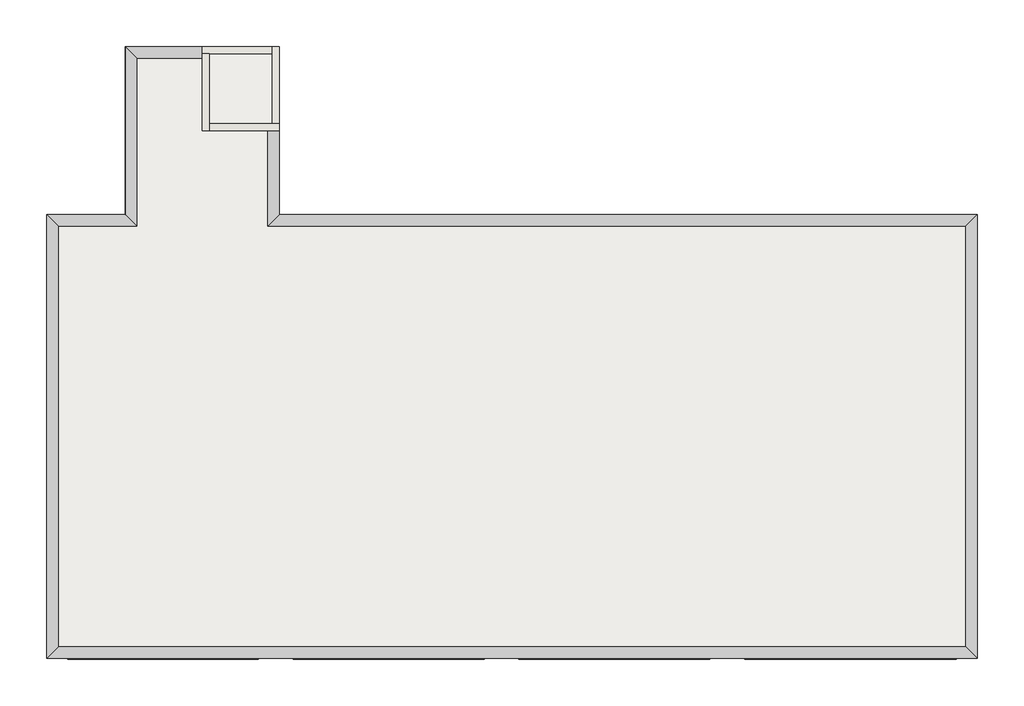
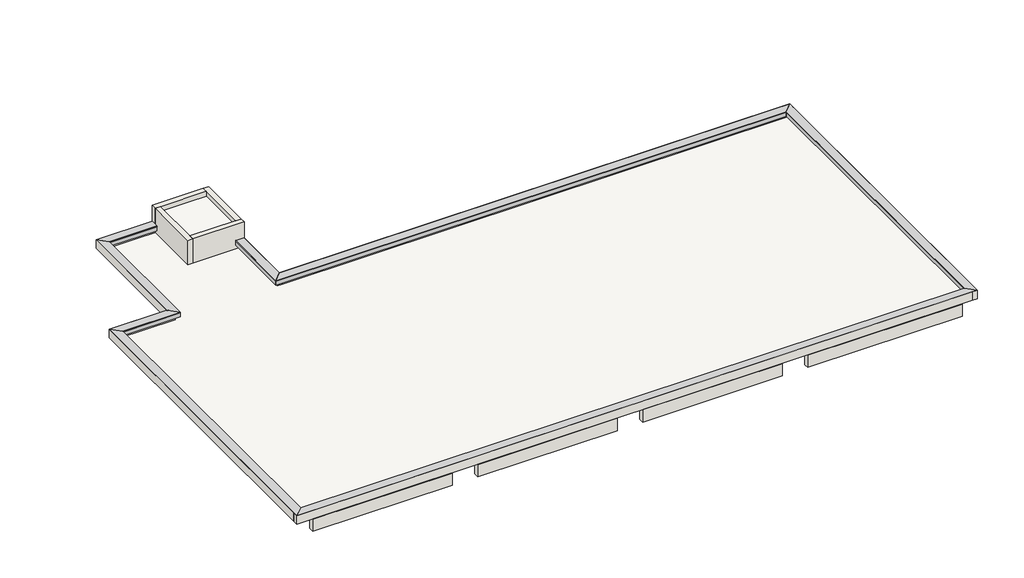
# One storey: 16 proxies, 16 walls, 2 slabs.
"""IFC4 building model written with IfcOpenShell, lengths in millimetres."""

import ifcopenshell
import ifcopenshell.guid

model = None  # the IFC model being written
_history = None  # IfcOwnerHistory: only IFC2X3 demands one
_inside = {}  # id of a spatial element -> (the spatial element, [elements in it])
_under = {}  # id of a project, library or spatial element -> (it, [spatial elements below it])
_declared = {}  # id of a project -> (the project, [libraries it declares])
_typed = {}  # id of a type object -> (the type object, [elements of that type])
_made_of = {}  # id of a material, layer set ... -> (it, [elements and type objects made of it])


def new_model(schema):
    """Start an empty IFC model of exactly this schema.

    Asked for "IFC4X3", IfcOpenShell would pick the latest addendum, in which some entities
    have other attributes; the version numbers below select the first issue.
    IFC2X3 requires an IfcOwnerHistory on every rooted entity: one is made here for all.
    """
    global model, _history
    if schema == "IFC4X3":
        model = ifcopenshell.file(schema_version=(4, 3, 0, 0))
    else:
        model = ifcopenshell.file(schema=schema)
    _inside.clear()
    _under.clear()
    _declared.clear()
    _typed.clear()
    _made_of.clear()
    _history = None
    if model.schema == "IFC2X3":
        org = make("IfcOrganization", Name="unknown")
        user = make(
            "IfcPersonAndOrganization",
            ThePerson=make("IfcPerson", FamilyName="unknown"),
            TheOrganization=org,
        )
        app = make(
            "IfcApplication",
            ApplicationDeveloper=org,
            Version="unknown",
            ApplicationFullName="unknown",
            ApplicationIdentifier="unknown",
        )
        _history = make(
            "IfcOwnerHistory",
            OwningUser=user,
            OwningApplication=app,
            ChangeAction="ADDED",
            CreationDate=0,
        )
    return model


def make(cls, **values):
    """One entity of the class cls with the attributes given. An attribute that is None is left unset."""
    return model.create_entity(
        cls, **{name: value for name, value in values.items() if value is not None}
    )


def rooted(cls, **values):
    """An entity with a GlobalId (a new one), such as an element, a storey or a relation."""
    return make(cls, GlobalId=ifcopenshell.guid.new(), OwnerHistory=_history, **values)


def si_unit(unit_type, name, prefix=None):
    """IfcSIUnit, for example si_unit("LENGTHUNIT", "METRE", prefix="MILLI")."""
    return make("IfcSIUnit", UnitType=unit_type, Prefix=prefix, Name=name)


def assignment(units):
    """IfcUnitAssignment: the units of a project."""
    return None if units is None else make("IfcUnitAssignment", Units=units)


def point(xyz):
    """IfcCartesianPoint."""
    return None if xyz is None else make("IfcCartesianPoint", Coordinates=xyz)


def direction(xyz):
    """IfcDirection."""
    return None if xyz is None else make("IfcDirection", DirectionRatios=xyz)


def frame(location, z_axis=None, x_axis=None):
    """IfcAxis2Placement3D, a coordinate frame: its origin and axes. An axis left out is left unset."""
    return make(
        "IfcAxis2Placement3D",
        Location=point(location),
        Axis=direction(z_axis),
        RefDirection=direction(x_axis),
    )


def origin():
    """The frame at (0, 0, 0) with its axes left unset."""
    return frame((0.0, 0.0, 0.0))


def place(relative_to, where):
    """IfcLocalPlacement: puts the frame where relative to a parent placement (None: the world)."""
    return make(
        "IfcLocalPlacement", PlacementRelTo=relative_to, RelativePlacement=where
    )


def context(
    kind, dimensions, precision=None, world=None, true_north=None, identifier=None
):
    """IfcGeometricRepresentationContext, for example the 3D "Model" context."""
    return make(
        "IfcGeometricRepresentationContext",
        ContextIdentifier=identifier,
        ContextType=kind,
        CoordinateSpaceDimension=dimensions,
        Precision=precision,
        WorldCoordinateSystem=world,
        TrueNorth=true_north,
    )


def project(units=None, contexts=None):
    """IfcProject with its units and contexts."""
    return rooted(
        "IfcProject",
        Name="project",
        RepresentationContexts=contexts,
        UnitsInContext=assignment(units),
    )


def spatial(cls, under=None, at=None, **own):
    """A site, building, storey or space (cls), placed at a placement, below another one or the project."""
    s = rooted(cls, ObjectPlacement=at, **own)
    if under is not None:
        _under.setdefault(under.id(), (under, []))[1].append(s)
    return s


def polyline(points):
    """IfcPolyline through the points."""
    return make("IfcPolyline", Points=[point(p) for p in points])


def outline(outer, holes=None, kind="AREA"):
    """IfcArbitraryClosedProfileDef: a profile drawn as a closed curve; with holes, ...WithVoids."""
    if holes is None:
        return make("IfcArbitraryClosedProfileDef", ProfileType=kind, OuterCurve=outer)
    return make(
        "IfcArbitraryProfileDefWithVoids",
        ProfileType=kind,
        OuterCurve=outer,
        InnerCurves=holes,
    )


def extrude(swept, where, along, depth):
    """IfcExtrudedAreaSolid: the profile swept, set in the frame where, extruded along a direction by depth."""
    return make(
        "IfcExtrudedAreaSolid",
        SweptArea=swept,
        Position=where,
        ExtrudedDirection=direction(along),
        Depth=depth,
    )


def faces_of(points, faces, orient=None, outer=None):
    """IfcFace entities. A face is a list of loops; a loop is a list of indices into points, from 0.

    orient and outer hold one flag for each loop. By default every Orientation is true, the
    first loop of a face is its IfcFaceOuterBound and the others are IfcFaceBound.
    """
    made = []
    for i, loops in enumerate(faces):
        bounds = []
        for j, loop in enumerate(loops):
            is_outer = j == 0 if outer is None else outer[i][j]
            bounds.append(
                make(
                    "IfcFaceOuterBound" if is_outer else "IfcFaceBound",
                    Bound=make("IfcPolyLoop", Polygon=[points[k] for k in loop]),
                    Orientation=True if orient is None else orient[i][j],
                )
            )
        made.append(make("IfcFace", Bounds=bounds))
    return made


def faceted_brep(points, faces, orient=None, outer=None, voids=None):
    """IfcFacetedBrep: a solid bounded by flat faces; with voids (closed shells), ...WithVoids."""
    shared = [point(p) for p in points]
    hull = make("IfcClosedShell", CfsFaces=faces_of(shared, faces, orient, outer))
    if voids is None:
        return make("IfcFacetedBrep", Outer=hull)
    return make(
        "IfcFacetedBrepWithVoids",
        Outer=hull,
        Voids=[
            make(cls, CfsFaces=faces_of(shared, fs, o, b)) for cls, fs, o, b in voids
        ],
    )


def shape(context_of_items, identifier, shape_type, items):
    """IfcShapeRepresentation: the items that make up one representation, for example the "Body"."""
    return make(
        "IfcShapeRepresentation",
        ContextOfItems=context_of_items,
        RepresentationIdentifier=identifier,
        RepresentationType=shape_type,
        Items=items,
    )


def made_of(thing, what):
    """Note that an element or type object is made of a material, layer set ...; save() writes the relation."""
    if what is not None:
        _made_of.setdefault(what.id(), (what, []))[1].append(thing)
    return thing


def element(
    cls,
    number,
    at=None,
    inside=None,
    cuts=None,
    type_object=None,
    material=None,
    context=None,
    identifier="Body",
    shape_type=None,
    held_by="IfcProductDefinitionShape",
    body=None,
    shapes=None,
    **own,
):
    """One element of the class cls, such as IfcWall. Its Tag is "e" and its number.

    at: its placement. inside: the storey or other place that contains it. cuts: it is an
    opening in that element (IfcRelVoidsElement). A single representation is given by context,
    identifier, shape_type and body (its items); several are given by shapes. held_by: the class
    of the entity that holds the representations. save() writes the other relations.
    """
    e = rooted(cls, Tag="e%d" % number, ObjectPlacement=at, **own)
    if body is not None:
        shapes = [shape(context, identifier, shape_type, body)]
    if shapes is not None:
        e.Representation = make(held_by, Representations=shapes)
    if inside is not None:
        _inside.setdefault(inside.id(), (inside, []))[1].append(e)
    if cuts is not None:
        rooted(
            "IfcRelVoidsElement", RelatingBuildingElement=cuts, RelatedOpeningElement=e
        )
    if type_object is not None:
        _typed.setdefault(type_object.id(), (type_object, []))[1].append(e)
    return made_of(e, material)


def aggregate(whole, parts):
    """IfcRelAggregates: a whole, such as a stair, and the parts it consists of."""
    return rooted("IfcRelAggregates", RelatingObject=whole, RelatedObjects=parts)


def save(model, path):
    """Write the relations noted so far, then the file.

    IfcRelAggregates (storeys below a building ...), IfcRelContainedInSpatialStructure (elements
    in a storey), IfcRelDefinesByType, IfcRelAssociatesMaterial and IfcRelDeclares: one each for
    every whole, place, type object, material and project.
    """
    for whole, parts in _under.values():
        aggregate(whole, parts)
    for where, things in _inside.values():
        rooted(
            "IfcRelContainedInSpatialStructure",
            RelatedElements=things,
            RelatingStructure=where,
        )
    for kind, things in _typed.values():
        rooted("IfcRelDefinesByType", RelatedObjects=things, RelatingType=kind)
    for what, things in _made_of.values():
        rooted("IfcRelAssociatesMaterial", RelatedObjects=things, RelatingMaterial=what)
    for by, libraries in _declared.values():
        rooted("IfcRelDeclares", RelatingContext=by, RelatedDefinitions=libraries)
    model.write(path)


model = new_model("IFC4")

# Units and contexts
model_context = context("Model", 3, world=origin())
ifc_project = project(units=[si_unit("LENGTHUNIT", "METRE", prefix="MILLI")], contexts=[model_context])

# Site, building, storey
site = spatial("IfcSite", under=ifc_project)
building = spatial("IfcBuilding", under=site)
storey = spatial("IfcBuildingStorey", under=building, Name="RSL", Elevation=13000.0)

# Proxies
placement = place(None, origin())
element("IfcBuildingElementProxy", 1, Name="Reveals", at=placement, inside=storey, context=model_context, shape_type="Brep", body=[
    faceted_brep([(-4958.7187246, -1750.1171638, 13320.0), (-4958.7187246, -1750.1171638, 13350.0), (-4628.7187246, -1750.1171638, 13350.0), (-4958.7187246, -4480.1171638, 13320.0), (-4628.7187246, -4150.1171638, 13350.0), (-4958.7187246, -4480.1171638, 13350.0)], [[[0, 1, 2]], [[3, 4, 5]], [[1, 0, 3, 5]], [[2, 1, 5, 4]], [[0, 2, 4, 3]]]),
])
element("IfcBuildingElementProxy", 2, Name="Wall Sweeps", at=placement, inside=storey, context=model_context, shape_type="Brep", body=[
    faceted_brep([(-4958.7187246, -1750.1171638, 13160.0), (-4958.7187246, -1750.1171638, 13320.0), (-4628.7187246, -1750.1171638, 13350.0), (-4828.7187246, -1750.1171638, 13160.0), (-4958.7187246, -4480.1171638, 13160.0), (-4828.7187246, -4350.1171638, 13160.0), (-4628.7187246, -4150.1171638, 13350.0), (-4958.7187246, -4480.1171638, 13320.0)], [[[0, 1, 2, 3]], [[4, 5, 6, 7]], [[1, 0, 4, 7]], [[2, 1, 7, 6]], [[3, 2, 6, 5]], [[0, 3, 5, 4]]]),
])
element("IfcBuildingElementProxy", 3, Name="Reveals", at=placement, inside=storey, context=model_context, shape_type="Brep", body=[
    faceted_brep([(-4958.7187246, -4480.1171638, 13320.0), (-4958.7187246, -4480.1171638, 13350.0), (-4628.7187246, -4150.1171638, 13350.0), (14991.2812754, -4480.1171638, 13320.0), (15321.2812754, -4150.1171638, 13350.0), (14991.2812754, -4480.1171638, 13350.0)], [[[0, 1, 2]], [[3, 4, 5]], [[1, 0, 3, 5]], [[2, 1, 5, 4]], [[0, 2, 4, 3]]]),
])
element("IfcBuildingElementProxy", 4, Name="Wall Sweeps", at=placement, inside=storey, context=model_context, shape_type="Brep", body=[
    faceted_brep([(-4958.7187246, -4480.1171638, 13160.0), (-4958.7187246, -4480.1171638, 13320.0), (-4628.7187246, -4150.1171638, 13350.0), (-4828.7187246, -4350.1171638, 13160.0), (14991.2812754, -4480.1171638, 13160.0), (15121.2812754, -4350.1171638, 13160.0), (15321.2812754, -4150.1171638, 13350.0), (14991.2812754, -4480.1171638, 13320.0)], [[[0, 1, 2, 3]], [[4, 5, 6, 7]], [[1, 0, 4, 7]], [[2, 1, 7, 6]], [[3, 2, 6, 5]], [[0, 3, 5, 4]]]),
])
element("IfcBuildingElementProxy", 5, Name="Reveals", at=placement, inside=storey, context=model_context, shape_type="Brep", body=[
    faceted_brep([(14991.2812754, -4480.1171638, 13320.0), (14991.2812754, -4480.1171638, 13350.0), (15321.2812754, -4150.1171638, 13350.0), (14991.2812754, -16520.1171638, 13320.0), (15321.2812754, -16850.1171638, 13350.0), (14991.2812754, -16520.1171638, 13350.0)], [[[0, 1, 2]], [[3, 4, 5]], [[1, 0, 3, 5]], [[2, 1, 5, 4]], [[0, 2, 4, 3]]]),
])
element("IfcBuildingElementProxy", 6, Name="Wall Sweeps", at=placement, inside=storey, context=model_context, shape_type="Brep", body=[
    faceted_brep([(14991.2812754, -4480.1171638, 13160.0), (14991.2812754, -4480.1171638, 13320.0), (15321.2812754, -4150.1171638, 13350.0), (15121.2812754, -4350.1171638, 13160.0), (14991.2812754, -16520.1171638, 13160.0), (15121.2812754, -16650.1171638, 13160.0), (15321.2812754, -16850.1171638, 13350.0), (14991.2812754, -16520.1171638, 13320.0)], [[[0, 1, 2, 3]], [[4, 5, 6, 7]], [[1, 0, 4, 7]], [[2, 1, 7, 6]], [[3, 2, 6, 5]], [[0, 3, 5, 4]]]),
])
element("IfcBuildingElementProxy", 7, Name="Reveals", at=placement, inside=storey, context=model_context, shape_type="Brep", body=[
    faceted_brep([(14991.2812754, -16520.1171638, 13320.0), (14991.2812754, -16520.1171638, 13350.0), (15321.2812754, -16850.1171638, 13350.0), (-10948.7187246, -16520.1171638, 13320.0), (-11278.7187246, -16850.1171638, 13350.0), (-10948.7187246, -16520.1171638, 13350.0)], [[[0, 1, 2]], [[3, 4, 5]], [[1, 0, 3, 5]], [[2, 1, 5, 4]], [[0, 2, 4, 3]]]),
])
element("IfcBuildingElementProxy", 8, Name="Wall Sweeps", at=placement, inside=storey, context=model_context, shape_type="Brep", body=[
    faceted_brep([(14991.2812754, -16520.1171638, 13160.0), (14991.2812754, -16520.1171638, 13320.0), (15321.2812754, -16850.1171638, 13350.0), (15121.2812754, -16650.1171638, 13160.0), (-10948.7187246, -16520.1171638, 13160.0), (-11078.7187246, -16650.1171638, 13160.0), (-11278.7187246, -16850.1171638, 13350.0), (-10948.7187246, -16520.1171638, 13320.0)], [[[0, 1, 2, 3]], [[4, 5, 6, 7]], [[1, 0, 4, 7]], [[2, 1, 7, 6]], [[3, 2, 6, 5]], [[0, 3, 5, 4]]]),
])
element("IfcBuildingElementProxy", 9, Name="Reveals", at=placement, inside=storey, context=model_context, shape_type="Brep", body=[
    faceted_brep([(-10948.7187246, -16520.1171638, 13320.0), (-10948.7187246, -16520.1171638, 13350.0), (-11278.7187246, -16850.1171638, 13350.0), (-10948.7187246, -4480.1171638, 13320.0), (-11278.7187246, -4150.1171638, 13350.0), (-10948.7187246, -4480.1171638, 13350.0)], [[[0, 1, 2]], [[3, 4, 5]], [[1, 0, 3, 5]], [[2, 1, 5, 4]], [[0, 2, 4, 3]]]),
])
element("IfcBuildingElementProxy", 10, Name="Wall Sweeps", at=placement, inside=storey, context=model_context, shape_type="Brep", body=[
    faceted_brep([(-10948.7187246, -16520.1171638, 13160.0), (-10948.7187246, -16520.1171638, 13320.0), (-11278.7187246, -16850.1171638, 13350.0), (-11078.7187246, -16650.1171638, 13160.0), (-10948.7187246, -4480.1171638, 13160.0), (-11078.7187246, -4350.1171638, 13160.0), (-11278.7187246, -4150.1171638, 13350.0), (-10948.7187246, -4480.1171638, 13320.0)], [[[0, 1, 2, 3]], [[4, 5, 6, 7]], [[1, 0, 4, 7]], [[2, 1, 7, 6]], [[3, 2, 6, 5]], [[0, 3, 5, 4]]]),
])
element("IfcBuildingElementProxy", 11, Name="Reveals", at=placement, inside=storey, context=model_context, shape_type="Brep", body=[
    faceted_brep([(-10948.7187246, -4480.1171638, 13320.0), (-10948.7187246, -4480.1171638, 13350.0), (-11278.7187246, -4150.1171638, 13350.0), (-8698.7187246, -4480.1171638, 13320.0), (-9028.7187246, -4150.1171638, 13350.0), (-8698.7187246, -4480.1171638, 13350.0)], [[[0, 1, 2]], [[3, 4, 5]], [[1, 0, 3, 5]], [[2, 1, 5, 4]], [[0, 2, 4, 3]]]),
])
element("IfcBuildingElementProxy", 12, Name="Wall Sweeps", at=placement, inside=storey, context=model_context, shape_type="Brep", body=[
    faceted_brep([(-10948.7187246, -4480.1171638, 13160.0), (-10948.7187246, -4480.1171638, 13320.0), (-11278.7187246, -4150.1171638, 13350.0), (-11078.7187246, -4350.1171638, 13160.0), (-8698.7187246, -4480.1171638, 13160.0), (-8828.7187246, -4350.1171638, 13160.0), (-9028.7187246, -4150.1171638, 13350.0), (-8698.7187246, -4480.1171638, 13320.0)], [[[0, 1, 2, 3]], [[4, 5, 6, 7]], [[1, 0, 4, 7]], [[2, 1, 7, 6]], [[3, 2, 6, 5]], [[0, 3, 5, 4]]]),
])
element("IfcBuildingElementProxy", 13, Name="Reveals", at=placement, inside=storey, context=model_context, shape_type="Brep", body=[
    faceted_brep([(-8698.7187246, -4480.1171638, 13320.0), (-8698.7187246, -4480.1171638, 13350.0), (-9028.7187246, -4150.1171638, 13350.0), (-8698.7187246, 319.8828362, 13320.0), (-9028.7187246, 649.8828362, 13350.0), (-8698.7187246, 319.8828362, 13350.0)], [[[0, 1, 2]], [[3, 4, 5]], [[1, 0, 3, 5]], [[2, 1, 5, 4]], [[0, 2, 4, 3]]]),
])
element("IfcBuildingElementProxy", 14, Name="Wall Sweeps", at=placement, inside=storey, context=model_context, shape_type="Brep", body=[
    faceted_brep([(-8698.7187246, -4480.1171638, 13160.0), (-8698.7187246, -4480.1171638, 13320.0), (-9028.7187246, -4150.1171638, 13350.0), (-8828.7187246, -4350.1171638, 13160.0), (-8698.7187246, 319.8828362, 13160.0), (-8828.7187246, 449.8828362, 13160.0), (-9028.7187246, 649.8828362, 13350.0), (-8698.7187246, 319.8828362, 13320.0)], [[[0, 1, 2, 3]], [[4, 5, 6, 7]], [[1, 0, 4, 7]], [[2, 1, 7, 6]], [[3, 2, 6, 5]], [[0, 3, 5, 4]]]),
])
element("IfcBuildingElementProxy", 15, Name="Reveals", at=placement, inside=storey, context=model_context, shape_type="Brep", body=[
    faceted_brep([(-8698.7187246, 319.8828362, 13320.0), (-8698.7187246, 319.8828362, 13350.0), (-9028.7187246, 649.8828362, 13350.0), (-6828.7187246, 319.8828362, 13320.0), (-6828.7187246, 649.8828362, 13350.0), (-6828.7187246, 319.8828362, 13350.0)], [[[0, 1, 2]], [[3, 4, 5]], [[1, 0, 3, 5]], [[2, 1, 5, 4]], [[0, 2, 4, 3]]]),
])
element("IfcBuildingElementProxy", 16, Name="Wall Sweeps", at=placement, inside=storey, context=model_context, shape_type="Brep", body=[
    faceted_brep([(-8698.7187246, 319.8828362, 13160.0), (-8698.7187246, 319.8828362, 13320.0), (-9028.7187246, 649.8828362, 13350.0), (-8828.7187246, 449.8828362, 13160.0), (-6828.7187246, 319.8828362, 13160.0), (-6828.7187246, 449.8828362, 13160.0), (-6828.7187246, 649.8828362, 13350.0), (-6828.7187246, 319.8828362, 13320.0)], [[[0, 1, 2, 3]], [[4, 5, 6, 7]], [[1, 0, 4, 7]], [[2, 1, 7, 6]], [[3, 2, 6, 5]], [[0, 3, 5, 4]]]),
])

# Slabs
element("IfcSlab", 17, ObjectType="RC150", at=placement, inside=storey, context=model_context, shape_type="SweptSolid", body=[
    extrude(outline(polyline([(-4828.7187246, 449.8828362), (-4828.7187246, -1550.1171638), (-6628.7187246, -1550.1171638), (-6628.7187246, 449.8828362), (-4828.7187246, 449.8828362)])), frame((0.0, 0.0, 13650.0), z_axis=(0.0, 0.0, 1.0), x_axis=(1.0, 0.0, 0.0)), (0.0, 0.0, 1.0), 150.0),
])
element("IfcSlab", 18, ObjectType="RC150", at=placement, inside=storey, context=model_context, shape_type="SweptSolid", body=[
    extrude(outline(polyline([(15121.2812754, -4350.1171638), (15121.2812754, -16650.1171638), (-11078.7187246, -16650.1171638), (-11078.7187246, -4350.1171638), (-8828.7187246, -4350.1171638), (-8828.7187246, 449.8828362), (-6828.7187246, 449.8828362), (-6828.7187246, -1750.1171638), (-4828.7187246, -1750.1171638), (-4828.7187246, -4350.1171638), (15121.2812754, -4350.1171638)])), frame((0.0, 0.0, 12850.0), z_axis=(0.0, 0.0, 1.0), x_axis=(1.0, 0.0, 0.0)), (0.0, 0.0, 1.0), 150.0),
])

# Walls
element("IfcWall", 19, ObjectType="(R)RC200", at=placement, inside=storey, context=model_context, shape_type="SweptSolid", body=[
    extrude(outline(polyline([(-5228.7187246, -16870.1171638), (-10678.7187246, -16870.1171638), (-10678.7187246, -16670.1171638), (-5228.7187246, -16670.1171638), (-5228.7187246, -16870.1171638)])), frame((0.0, 0.0, 12500.0), z_axis=(0.0, 0.0, 1.0), x_axis=(1.0, 0.0, 0.0)), (0.0, 0.0, 1.0), 500.0),
])
element("IfcWall", 20, ObjectType="(R)RC200", at=placement, inside=storey, context=model_context, shape_type="SweptSolid", body=[
    extrude(outline(polyline([(1221.2812754, -16870.1171638), (-4228.7187246, -16870.1171638), (-4228.7187246, -16670.1171638), (1221.2812754, -16670.1171638), (1221.2812754, -16870.1171638)])), frame((0.0, 0.0, 12500.0), z_axis=(0.0, 0.0, 1.0), x_axis=(1.0, 0.0, 0.0)), (0.0, 0.0, 1.0), 500.0),
])
element("IfcWall", 21, ObjectType="(R)RC200", at=placement, inside=storey, context=model_context, shape_type="SweptSolid", body=[
    extrude(outline(polyline([(7671.2812754, -16870.1171638), (2221.2812754, -16870.1171638), (2221.2812754, -16670.1171638), (7671.2812754, -16670.1171638), (7671.2812754, -16870.1171638)])), frame((0.0, 0.0, 12500.0), z_axis=(0.0, 0.0, 1.0), x_axis=(1.0, 0.0, 0.0)), (0.0, 0.0, 1.0), 500.0),
])
element("IfcWall", 22, ObjectType="(R)RC200", at=placement, inside=storey, context=model_context, shape_type="SweptSolid", body=[
    extrude(outline(polyline([(14721.2812754, -16870.1171638), (8671.2812754, -16870.1171638), (8671.2812754, -16670.1171638), (14721.2812754, -16670.1171638), (14721.2812754, -16870.1171638)])), frame((0.0, 0.0, 12500.0), z_axis=(0.0, 0.0, 1.0), x_axis=(1.0, 0.0, 0.0)), (0.0, 0.0, 1.0), 500.0),
])
element("IfcWall", 23, ObjectType="(R)RC200", at=placement, inside=storey, context=model_context, shape_type="Brep", body=[
    faceted_brep([(-6828.7187246, 449.8828362, 14000.0), (-6828.7187246, 449.8828362, 13160.0), (-6828.7187246, 449.8828362, 13000.0), (-6628.7187246, 449.8828362, 13000.0), (-4828.7187246, 449.8828362, 13000.0), (-4828.7187246, 449.8828362, 13650.0), (-4828.7187246, 449.8828362, 13800.0), (-4828.7187246, 449.8828362, 14000.0), (-6628.7187246, 449.8828362, 14000.0), (-6828.7187246, 649.8828362, 13000.0), (-6828.7187246, 649.8828362, 13350.0), (-6828.7187246, 649.8828362, 14000.0), (-4828.7187246, 649.8828362, 14000.0), (-4828.7187246, 649.8828362, 13000.0)], [[[0, 1, 2, 3, 4, 5, 6, 7, 8]], [[9, 10, 11, 12, 13]], [[4, 3, 2, 9, 13]], [[0, 8, 7, 12, 11]], [[7, 6, 5, 4, 13, 12]], [[0, 11, 10, 9, 2, 1]]]),
])
element("IfcWall", 24, ObjectType="(R)RC200", at=placement, inside=storey, context=model_context, shape_type="Brep", body=[
    faceted_brep([(-6628.7187246, -1750.1171638, 13000.0), (-6628.7187246, -1550.1171638, 13000.0), (-6628.7187246, 449.8828362, 13000.0), (-6628.7187246, 449.8828362, 13650.0), (-6628.7187246, 449.8828362, 13800.0), (-6628.7187246, 449.8828362, 14000.0), (-6628.7187246, -1550.1171638, 14000.0), (-6628.7187246, -1750.1171638, 14000.0), (-6828.7187246, -1750.1171638, 13000.0), (-6828.7187246, -1750.1171638, 14000.0), (-6828.7187246, 449.8828362, 14000.0), (-6828.7187246, 449.8828362, 13000.0)], [[[0, 1, 2, 3, 4, 5, 6, 7]], [[8, 9, 10, 11]], [[2, 1, 0, 8, 11]], [[7, 6, 5, 10, 9]], [[0, 7, 9, 8]], [[2, 11, 10, 5, 4, 3]]]),
])
element("IfcWall", 25, ObjectType="(R)RC200", at=placement, inside=storey, context=model_context, shape_type="Brep", body=[
    faceted_brep([(-4628.7187246, -1550.1171638, 14000.0), (-4628.7187246, -1550.1171638, 13000.0), (-4828.7187246, -1550.1171638, 13000.0), (-6628.7187246, -1550.1171638, 13000.0), (-6628.7187246, -1550.1171638, 13650.0), (-6628.7187246, -1550.1171638, 13800.0), (-6628.7187246, -1550.1171638, 14000.0), (-4828.7187246, -1550.1171638, 14000.0), (-4628.7187246, -1750.1171638, 13000.0), (-4628.7187246, -1750.1171638, 13350.0), (-4628.7187246, -1750.1171638, 14000.0), (-6628.7187246, -1750.1171638, 14000.0), (-6628.7187246, -1750.1171638, 13000.0), (-4828.7187246, -1750.1171638, 13000.0)], [[[0, 1, 2, 3, 4, 5, 6, 7]], [[8, 9, 10, 11, 12, 13]], [[3, 2, 1, 8, 13, 12]], [[0, 7, 6, 11, 10]], [[6, 5, 4, 3, 12, 11]], [[0, 10, 9, 8, 1]]]),
])
element("IfcWall", 26, ObjectType="(R)RC200", at=placement, inside=storey, context=model_context, shape_type="Brep", body=[
    faceted_brep([(-4828.7187246, 649.8828362, 13000.0), (-4828.7187246, 449.8828362, 13000.0), (-4828.7187246, -1550.1171638, 13000.0), (-4828.7187246, -1550.1171638, 13650.0), (-4828.7187246, -1550.1171638, 13800.0), (-4828.7187246, -1550.1171638, 14000.0), (-4828.7187246, 449.8828362, 14000.0), (-4828.7187246, 649.8828362, 14000.0), (-4628.7187246, 649.8828362, 13000.0), (-4628.7187246, 649.8828362, 14000.0), (-4628.7187246, -1550.1171638, 14000.0), (-4628.7187246, -1550.1171638, 13000.0)], [[[0, 1, 2, 3, 4, 5, 6, 7]], [[8, 9, 10, 11]], [[2, 1, 0, 8, 11]], [[7, 6, 5, 10, 9]], [[0, 7, 9, 8]], [[2, 11, 10, 5, 4, 3]]]),
])
element("IfcWall", 27, ObjectType="パラペット200 アゴ", at=placement, inside=storey, context=model_context, shape_type="Brep", body=[
    faceted_brep([(-4828.7187246, -1750.1171638, 13000.0), (-4828.7187246, -4350.1171638, 13000.0), (-4828.7187246, -4350.1171638, 13160.0), (-4828.7187246, -1750.1171638, 13160.0), (-4628.7187246, -4350.1171638, 13000.0), (-4628.7187246, -4150.1171638, 13000.0), (-4628.7187246, -1750.1171638, 13000.0), (-4628.7187246, -1750.1171638, 13350.0), (-4628.7187246, -4150.1171638, 13350.0), (-4628.7187246, -4350.1171638, 13160.0)], [[[0, 1, 2, 3]], [[4, 5, 6, 7, 8, 9]], [[1, 0, 6, 5, 4]], [[2, 8, 7, 3]], [[7, 6, 0, 3]], [[1, 4, 9, 2]], [[8, 2, 9]]]),
])
element("IfcWall", 28, ObjectType="パラペット200 アゴ", at=placement, inside=storey, context=model_context, shape_type="Brep", body=[
    faceted_brep([(-4628.7187246, -4350.1171638, 13000.0), (15121.2812754, -4350.1171638, 13000.0), (15321.2812754, -4350.1171638, 13000.0), (15321.2812754, -4350.1171638, 13350.0), (15121.2812754, -4350.1171638, 13160.0), (-4628.7187246, -4350.1171638, 13160.0), (15321.2812754, -4150.1171638, 13000.0), (-4628.7187246, -4150.1171638, 13000.0), (-4628.7187246, -4150.1171638, 13350.0), (15321.2812754, -4150.1171638, 13350.0)], [[[0, 1, 2, 3, 4, 5]], [[6, 7, 8, 9]], [[2, 1, 0, 7, 6]], [[4, 9, 8, 5]], [[8, 7, 0, 5]], [[3, 2, 6, 9]], [[9, 4, 3]]]),
])
element("IfcWall", 29, ObjectType="パラペット200 アゴ", at=placement, inside=storey, context=model_context, shape_type="Brep", body=[
    faceted_brep([(15121.2812754, -4350.1171638, 13000.0), (15121.2812754, -16650.1171638, 13000.0), (15121.2812754, -16850.1171638, 13000.0), (15121.2812754, -16850.1171638, 13350.0), (15121.2812754, -16650.1171638, 13160.0), (15121.2812754, -4350.1171638, 13160.0), (15321.2812754, -16850.1171638, 13000.0), (15321.2812754, -4350.1171638, 13000.0), (15321.2812754, -4350.1171638, 13350.0), (15321.2812754, -16850.1171638, 13350.0)], [[[0, 1, 2, 3, 4, 5]], [[6, 7, 8, 9]], [[2, 1, 0, 7, 6]], [[4, 9, 8, 5]], [[8, 7, 0, 5]], [[3, 2, 6, 9]], [[9, 4, 3]]]),
])
element("IfcWall", 30, ObjectType="パラペット200 アゴ", at=placement, inside=storey, context=model_context, shape_type="Brep", body=[
    faceted_brep([(15121.2812754, -16650.1171638, 13000.0), (-11078.7187246, -16650.1171638, 13000.0), (-11278.7187246, -16650.1171638, 13000.0), (-11278.7187246, -16650.1171638, 13350.0), (-11078.7187246, -16650.1171638, 13160.0), (15121.2812754, -16650.1171638, 13160.0), (-11278.7187246, -16850.1171638, 13000.0), (15121.2812754, -16850.1171638, 13000.0), (15121.2812754, -16850.1171638, 13350.0), (-11278.7187246, -16850.1171638, 13350.0)], [[[0, 1, 2, 3, 4, 5]], [[6, 7, 8, 9]], [[2, 1, 0, 7, 6]], [[4, 9, 8, 5]], [[8, 7, 0, 5]], [[3, 2, 6, 9]], [[9, 4, 3]]]),
])
element("IfcWall", 31, ObjectType="パラペット200 アゴ", at=placement, inside=storey, context=model_context, shape_type="Brep", body=[
    faceted_brep([(-11078.7187246, -16650.1171638, 13000.0), (-11078.7187246, -4350.1171638, 13000.0), (-11078.7187246, -4150.1171638, 13000.0), (-11078.7187246, -4150.1171638, 13350.0), (-11078.7187246, -4350.1171638, 13160.0), (-11078.7187246, -16650.1171638, 13160.0), (-11278.7187246, -4150.1171638, 13000.0), (-11278.7187246, -16650.1171638, 13000.0), (-11278.7187246, -16650.1171638, 13350.0), (-11278.7187246, -4150.1171638, 13350.0)], [[[0, 1, 2, 3, 4, 5]], [[6, 7, 8, 9]], [[2, 1, 0, 7, 6]], [[4, 9, 8, 5]], [[8, 7, 0, 5]], [[3, 2, 6, 9]], [[9, 4, 3]]]),
])
element("IfcWall", 32, ObjectType="パラペット200 アゴ", at=placement, inside=storey, context=model_context, shape_type="Brep", body=[
    faceted_brep([(-11078.7187246, -4350.1171638, 13000.0), (-8828.7187246, -4350.1171638, 13000.0), (-8828.7187246, -4350.1171638, 13160.0), (-11078.7187246, -4350.1171638, 13160.0), (-8828.7187246, -4150.1171638, 13000.0), (-9028.7187246, -4150.1171638, 13000.0), (-11078.7187246, -4150.1171638, 13000.0), (-11078.7187246, -4150.1171638, 13350.0), (-9028.7187246, -4150.1171638, 13350.0), (-8828.7187246, -4150.1171638, 13160.0)], [[[0, 1, 2, 3]], [[4, 5, 6, 7, 8, 9]], [[1, 0, 6, 5, 4]], [[2, 8, 7, 3]], [[7, 6, 0, 3]], [[1, 4, 9, 2]], [[8, 2, 9]]]),
])
element("IfcWall", 33, ObjectType="パラペット200 アゴ", at=placement, inside=storey, context=model_context, shape_type="Brep", body=[
    faceted_brep([(-8828.7187246, -4150.1171638, 13000.0), (-8828.7187246, 449.8828362, 13000.0), (-8828.7187246, 649.8828362, 13000.0), (-8828.7187246, 649.8828362, 13350.0), (-8828.7187246, 449.8828362, 13160.0), (-8828.7187246, -4150.1171638, 13160.0), (-9028.7187246, 649.8828362, 13000.0), (-9028.7187246, -4150.1171638, 13000.0), (-9028.7187246, -4150.1171638, 13350.0), (-9028.7187246, 649.8828362, 13350.0)], [[[0, 1, 2, 3, 4, 5]], [[6, 7, 8, 9]], [[2, 1, 0, 7, 6]], [[4, 9, 8, 5]], [[8, 7, 0, 5]], [[3, 2, 6, 9]], [[9, 4, 3]]]),
])
element("IfcWall", 34, ObjectType="パラペット200 アゴ", at=placement, inside=storey, context=model_context, shape_type="SweptSolid", body=[
    extrude(outline(polyline([(649.8828362, 13350.0), (649.8828362, 13000.0), (449.8828362, 13000.0), (449.8828362, 13160.0), (649.8828362, 13350.0)])), frame((-8828.7187246, 0.0, 0.0), z_axis=(1.0, 0.0, 0.0), x_axis=(0.0, 1.0, 0.0)), (0.0, 0.0, 1.0), 2000.0),
])

save(model, "model.ifc")
